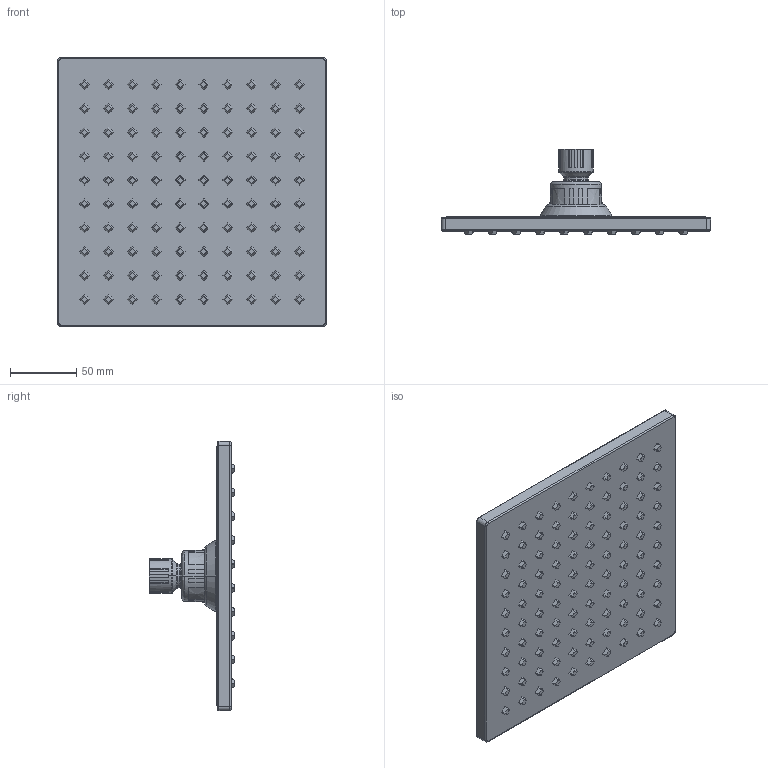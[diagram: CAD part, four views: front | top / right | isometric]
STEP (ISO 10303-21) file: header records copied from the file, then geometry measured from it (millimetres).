
FILE_DESCRIPTION (( 'STEP AP214' ), '1' );
FILE_NAME ('Hi-990A.STEP', '2021-07-22T04:53:39', ( '' ), ( '' ), 'SwSTEP 2.0', 'SolidWorks 2020', '' );
FILE_SCHEMA (( 'AUTOMOTIVE_DESIGN' ));
Length unit declared in the file: millimetre
Products named in the file (16): JYF01_1_1; Hi-990A; JQ_1_1; 990A_MJDZJ_ASM_1_ASM_1; 803A_QS_ASM_2_ASM_1; 803A_QS_2_1; 990A_JD_1_1; 803A_QTLS_2_1; JYF02_1_1; 990A_MB_1_1; 990A_QSG_2_1; 203A-NSQ_2_1; 803A-QSFHD_2_1; 990A_SB_1_1; 990A_SBHJZJ_ASM_1_ASM_1; JYF_ASM_1_ASM_1
Assembly tree (114 placements, depth 4):
  Hi-990A
    990A_SBHJZJ_ASM_1_ASM_1
      990A_MJDZJ_ASM_1_ASM_1
        990A_MB_1_1
        990A_JD_1_1  x100
      990A_SB_1_1
    990A_QSG_2_1
    803A-QSFHD_2_1
    803A_QS_ASM_2_ASM_1
      803A_QS_2_1
      803A_QTLS_2_1
    203A-NSQ_2_1
    JYF_ASM_1_ASM_1
      JYF01_1_1
      JYF02_1_1
      JQ_1_1
Bounding box: 203.17 x 64.1 x 203.17 mm (x, y, z)
Volume: 439780.4 mm3; surface area: 212674.2 mm2
Topology: 110 solids, 110 shells, 2450 faces, 5294 edges, 3087 vertices
Faces by surface type: cylinder 1006, plane 870, bspline 502, cone 68, torus 4
Entity records: 32563 total; most frequent: CARTESIAN_POINT 16004, ORIENTED_EDGE 3448, DIRECTION 3034, EDGE_CURVE 1724, AXIS2_PLACEMENT_3D 1139, VERTEX_POINT 1107, VECTOR 756, LINE 756
